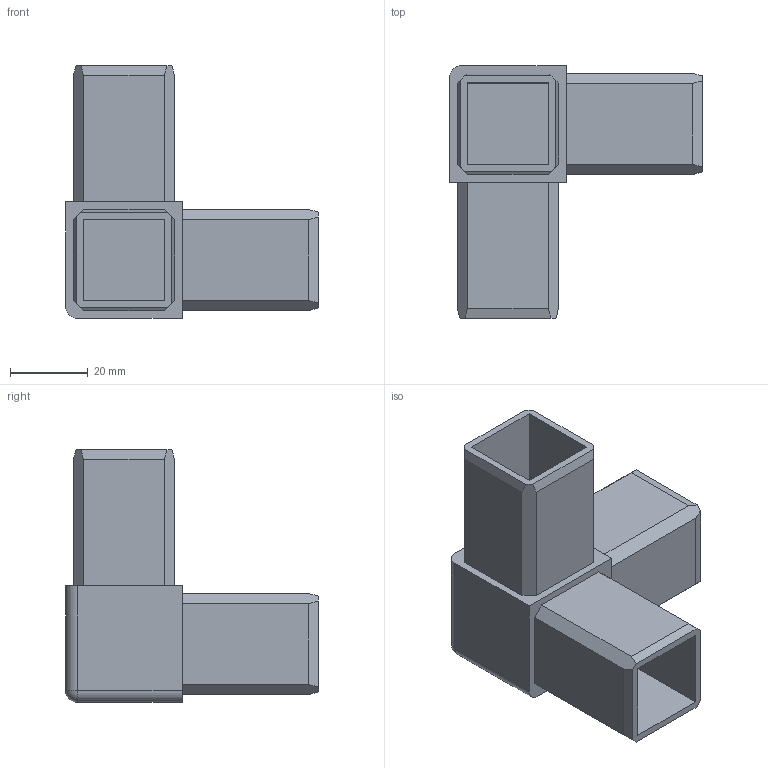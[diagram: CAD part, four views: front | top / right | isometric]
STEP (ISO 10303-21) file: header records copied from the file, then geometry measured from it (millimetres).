
FILE_DESCRIPTION (( 'STEP AP214' ), '1' );
FILE_NAME ('L15813.step', '2024-12-03T16:19:09', ( '' ), ( '' ), 'SwSTEP 2.0', 'SolidWorks 2023', '' );
FILE_SCHEMA (( 'AUTOMOTIVE_DESIGN' ));
Length unit declared in the file: millimetre
Products named in the file (1): L15813
Bounding box: 65 x 65 x 65 mm (x, y, z)
Volume: 34658.1 mm3; surface area: 25353.2 mm2
Topology: 1 solids, 1 shells, 58 faces, 157 edges, 102 vertices
Faces by surface type: plane 54, cylinder 3, sphere 1
Entity records: 1809 total; most frequent: CARTESIAN_POINT 317, ORIENTED_EDGE 312, DIRECTION 280, EDGE_CURVE 156, VECTOR 150, LINE 150, VERTEX_POINT 102, AXIS2_PLACEMENT_3D 65
